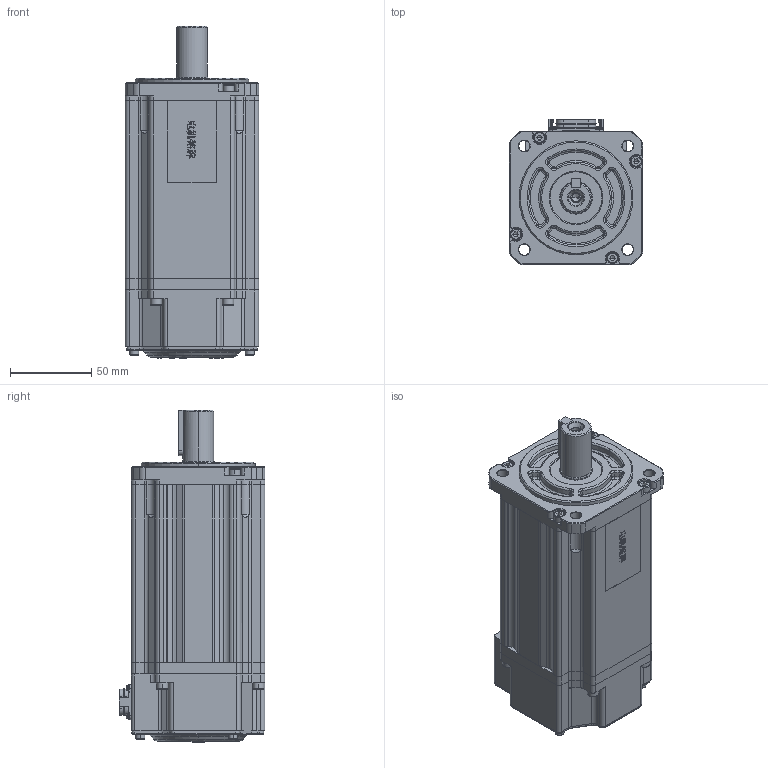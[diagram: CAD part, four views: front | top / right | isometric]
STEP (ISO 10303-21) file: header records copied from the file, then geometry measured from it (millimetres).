
FILE_DESCRIPTION (( 'STEP AP203' ), '1' );
FILE_NAME ('MC20-080-3L30-N102-1¡õCK-NNNN.STEP', '2026-04-20T15:26:05', ( '' ), ( '' ), 'SwSTEP 2.0', 'SolidWorks 2014', '' );
FILE_SCHEMA (( 'CONFIG_CONTROL_DESIGN' ));
Products named in the file (1): MC20-080-3L30-N102-1¡õCK-NNNN
Bounding box: 82 x 89.65 x 204 mm (x, y, z)
Volume: 1053705 mm3; surface area: 139324.2 mm2
Topology: 19 solids, 23 shells, 2303 faces, 6045 edges, 3856 vertices
Faces by surface type: plane 1058, cylinder 603, bspline 340, cone 184, torus 118
Entity records: 91285 total; most frequent: CARTESIAN_POINT 37156, ORIENTED_EDGE 11940, DIRECTION 10054, EDGE_CURVE 5970, VERTEX_POINT 3856, LINE 3402, VECTOR 3402, AXIS2_PLACEMENT_3D 3326
